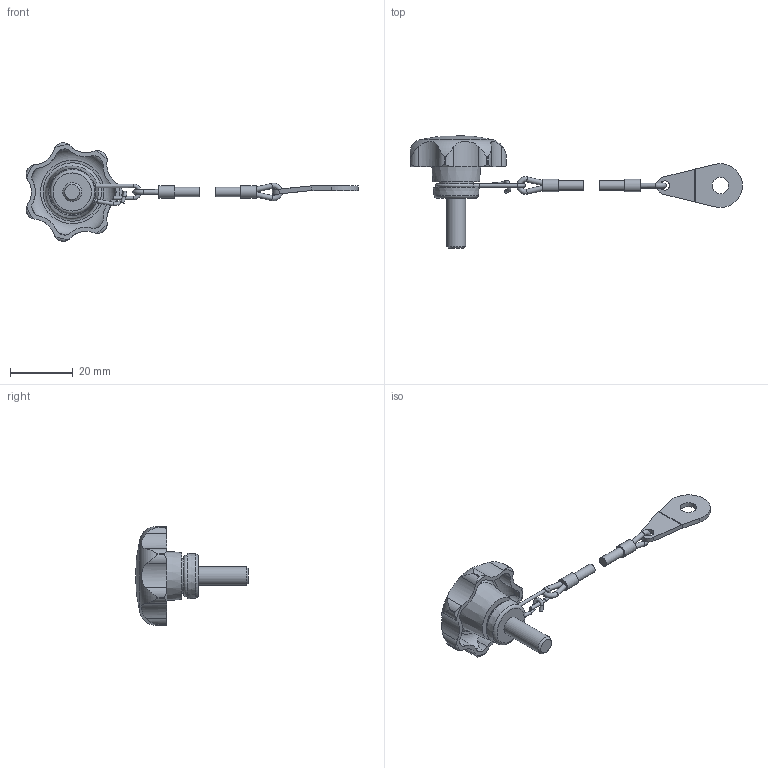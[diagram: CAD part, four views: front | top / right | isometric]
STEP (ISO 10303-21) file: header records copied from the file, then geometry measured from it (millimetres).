
FILE_DESCRIPTION( ( 'STEP AP203' ), '1' );
FILE_NAME( 'C:/Temp/Ganter_Step_05_03_2020/data/2_2/gn_6336_13/gn_6336_13_2/Star knob GN 6336.13-32-M6-16-H.stp', '2020-03-05T12:11:31', ( 'License CC BY-ND 4.0' ), ( 'CADENAS' ), ' ', 'PARTsolutions', ' ' );
FILE_SCHEMA( ( 'CONFIG_CONTROL_DESIGN' ) );
Length unit declared in the file: millimetre
Products named in the file (3): Star knob GN 6336.13-32-M6-16-H; _Star knob GN 6336.13-32-M6-16-H 6; _Star knob GN 111.2-200-14 h2
Assembly tree (2 placements, depth 2):
  Star knob GN 6336.13-32-M6-16-H
    _Star knob GN 6336.13-32-M6-16-H 6
    _Star knob GN 111.2-200-14 h2
Bounding box: 105.8 x 36 x 31.36 mm (x, y, z)
Volume: 6810.5 mm3; surface area: 4930 mm2
Topology: 2 solids, 2 shells, 137 faces, 377 edges, 245 vertices
Faces by surface type: cylinder 75, plane 30, torus 20, cone 11, sphere 1
Full cylindrical faces by diameter (mm): 1.1 x4, 1.11 x1, 1.6 x4, 3 x3, 4 x2, 5.3 x1, 6 x1, 10.9 x1
Entity records: 5106 total; most frequent: CARTESIAN_POINT 1802, DIRECTION 652, ORIENTED_EDGE 642, EDGE_CURVE 321, AXIS2_PLACEMENT_3D 281, VERTEX_POINT 231, EDGE_LOOP 187, FACE_OUTER_BOUND 166
